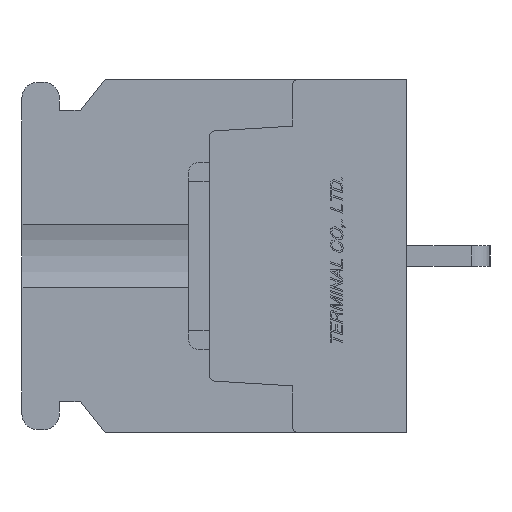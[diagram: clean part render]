
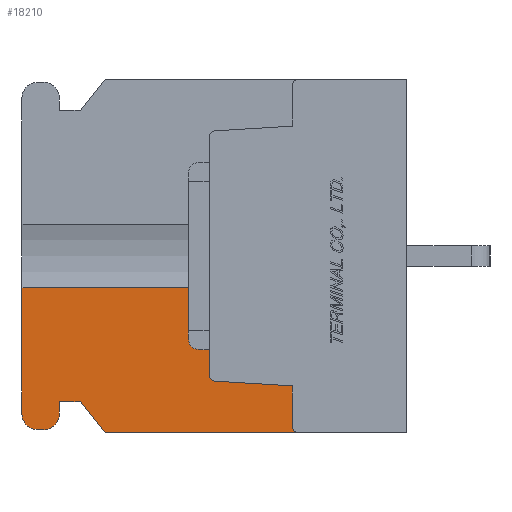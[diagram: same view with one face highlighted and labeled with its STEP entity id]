
A CAD part, left-side view. The second image highlights one B-rep face of the part: STEP entity #18210.
In plain terms, the highlighted planar face has unit normal (-1, 0, 0).
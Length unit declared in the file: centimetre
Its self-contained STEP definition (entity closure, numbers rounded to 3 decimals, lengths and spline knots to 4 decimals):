
#782=CIRCLE('',#31101,0.075);
#783=CIRCLE('',#31102,0.075);
#784=CIRCLE('',#31103,0.03);
#785=CIRCLE('',#31104,0.03);
#1628=VERTEX_POINT('',#25698);
#1629=VERTEX_POINT('',#25699);
#1630=VERTEX_POINT('',#25701);
#1631=VERTEX_POINT('',#25703);
#1632=VERTEX_POINT('',#25705);
#1633=VERTEX_POINT('',#25707);
#1634=VERTEX_POINT('',#25709);
#1635=VERTEX_POINT('',#25711);
#1636=VERTEX_POINT('',#25713);
#1637=VERTEX_POINT('',#25715);
#1638=VERTEX_POINT('',#25717);
#1639=VERTEX_POINT('',#25719);
#1640=VERTEX_POINT('',#25721);
#1641=VERTEX_POINT('',#25723);
#3593=VECTOR('',#20478,1.);
#3594=VECTOR('',#20479,1.);
#3595=VECTOR('',#20480,1.);
#3596=VECTOR('',#20483,1.);
#3597=VECTOR('',#20486,1.);
#3598=VECTOR('',#20487,1.);
#3599=VECTOR('',#20488,1.);
#3600=VECTOR('',#20489,1.);
#3601=VECTOR('',#20492,1.);
#3602=VECTOR('',#20493,1.);
#5607=LINE('',#25697,#3593);
#5608=LINE('',#25700,#3594);
#5609=LINE('',#25702,#3595);
#5610=LINE('',#25706,#3596);
#5611=LINE('',#25710,#3597);
#5612=LINE('',#25712,#3598);
#5613=LINE('',#25714,#3599);
#5614=LINE('',#25716,#3600);
#5615=LINE('',#25720,#3601);
#5616=LINE('',#25722,#3602);
#7761=EDGE_CURVE('',#1628,#1629,#5607,.T.);
#7762=EDGE_CURVE('',#1628,#1630,#5608,.T.);
#7763=EDGE_CURVE('',#1631,#1630,#5609,.T.);
#7764=EDGE_CURVE('',#1632,#1631,#782,.T.);
#7765=EDGE_CURVE('',#1633,#1632,#5610,.T.);
#7766=EDGE_CURVE('',#1634,#1633,#783,.T.);
#7767=EDGE_CURVE('',#1635,#1634,#5611,.T.);
#7768=EDGE_CURVE('',#1636,#1635,#5612,.T.);
#7769=EDGE_CURVE('',#1637,#1636,#5613,.T.);
#7770=EDGE_CURVE('',#1638,#1637,#5614,.T.);
#7771=EDGE_CURVE('',#1639,#1638,#784,.T.);
#7772=EDGE_CURVE('',#1640,#1639,#5615,.T.);
#7773=EDGE_CURVE('',#1641,#1640,#5616,.T.);
#7774=EDGE_CURVE('',#1629,#1641,#785,.T.);
#11207=ORIENTED_EDGE('',*,*,#7761,.F.);
#11208=ORIENTED_EDGE('',*,*,#7762,.T.);
#11209=ORIENTED_EDGE('',*,*,#7763,.F.);
#11210=ORIENTED_EDGE('',*,*,#7764,.F.);
#11211=ORIENTED_EDGE('',*,*,#7765,.F.);
#11212=ORIENTED_EDGE('',*,*,#7766,.F.);
#11213=ORIENTED_EDGE('',*,*,#7767,.F.);
#11214=ORIENTED_EDGE('',*,*,#7768,.F.);
#11215=ORIENTED_EDGE('',*,*,#7769,.F.);
#11216=ORIENTED_EDGE('',*,*,#7770,.F.);
#11217=ORIENTED_EDGE('',*,*,#7771,.F.);
#11218=ORIENTED_EDGE('',*,*,#7772,.F.);
#11219=ORIENTED_EDGE('',*,*,#7773,.F.);
#11220=ORIENTED_EDGE('',*,*,#7774,.F.);
#15899=EDGE_LOOP('',(#11207,#11208,#11209,#11210,#11211,#11212,#11213,#11214,
#11215,#11216,#11217,#11218,#11219,#11220));
#17067=FACE_BOUND('',#15899,.T.);
#18210=ADVANCED_FACE('',(#17067),#19182,.F.);
#19182=PLANE('',#31100);
#20477=DIRECTION('',(1.,0.,0.));
#20478=DIRECTION('',(0.,0.,-1.));
#20479=DIRECTION('',(0.,1.,0.));
#20480=DIRECTION('',(0.,0.,1.));
#20481=DIRECTION('',(1.,0.,0.));
#20482=DIRECTION('',(0.,0.,-0.075));
#20483=DIRECTION('',(0.,1.,0.));
#20484=DIRECTION('',(1.,0.,0.));
#20485=DIRECTION('',(0.,0.,-0.075));
#20486=DIRECTION('',(0.,0.,-1.));
#20487=DIRECTION('',(0.,1.,0.));
#20488=DIRECTION('',(0.,0.625,0.781));
#20489=DIRECTION('',(0.,1.,0.));
#20490=DIRECTION('',(-1.,0.,0.));
#20491=DIRECTION('',(0.,0.,0.03));
#20492=DIRECTION('',(0.,0.,-1.));
#20493=DIRECTION('',(0.,-0.998,-0.061));
#20494=DIRECTION('',(-1.,0.,0.));
#20495=DIRECTION('',(0.,0.,0.03));
#25696=CARTESIAN_POINT('',(-1.1,0.9454,0.));
#25697=CARTESIAN_POINT('',(-1.1,0.95,0.5718));
#25698=CARTESIAN_POINT('',(-1.1,0.95,-0.1521));
#25699=CARTESIAN_POINT('',(-1.1,0.95,-0.5718));
#25700=CARTESIAN_POINT('',(-1.1,1.4,-0.1521));
#25701=CARTESIAN_POINT('',(-1.1,1.85,-0.1521));
#25702=CARTESIAN_POINT('',(-1.1,1.85,-0.76));
#25703=CARTESIAN_POINT('',(-1.1,1.85,-0.76));
#25704=CARTESIAN_POINT('',(-1.1,1.775,-0.76));
#25705=CARTESIAN_POINT('',(-1.1,1.775,-0.835));
#25706=CARTESIAN_POINT('',(-1.1,1.745,-0.835));
#25707=CARTESIAN_POINT('',(-1.1,1.745,-0.835));
#25708=CARTESIAN_POINT('',(-1.1,1.745,-0.76));
#25709=CARTESIAN_POINT('',(-1.1,1.67,-0.76));
#25710=CARTESIAN_POINT('',(-1.1,1.67,-0.7));
#25711=CARTESIAN_POINT('',(-1.1,1.67,-0.7));
#25712=CARTESIAN_POINT('',(-1.1,1.57,-0.7));
#25713=CARTESIAN_POINT('',(-1.1,1.57,-0.7));
#25714=CARTESIAN_POINT('',(-1.1,1.45,-0.85));
#25715=CARTESIAN_POINT('',(-1.1,1.45,-0.85));
#25716=CARTESIAN_POINT('',(-1.1,0.,-0.85));
#25717=CARTESIAN_POINT('',(-1.1,0.52,-0.85));
#25718=CARTESIAN_POINT('',(-1.1,0.52,-0.82));
#25719=CARTESIAN_POINT('',(-1.1,0.55,-0.82));
#25720=CARTESIAN_POINT('',(-1.1,0.55,-0.6245));
#25721=CARTESIAN_POINT('',(-1.1,0.55,-0.6245));
#25722=CARTESIAN_POINT('',(-1.1,0.9218,-0.6017));
#25723=CARTESIAN_POINT('',(-1.1,0.9218,-0.6017));
#25724=CARTESIAN_POINT('',(-1.1,0.92,-0.5718));
#31100=AXIS2_PLACEMENT_3D('',#25696,#20477,$);
#31101=AXIS2_PLACEMENT_3D('',#25704,#20481,#20482);
#31102=AXIS2_PLACEMENT_3D('',#25708,#20484,#20485);
#31103=AXIS2_PLACEMENT_3D('',#25718,#20490,#20491);
#31104=AXIS2_PLACEMENT_3D('',#25724,#20494,#20495);
